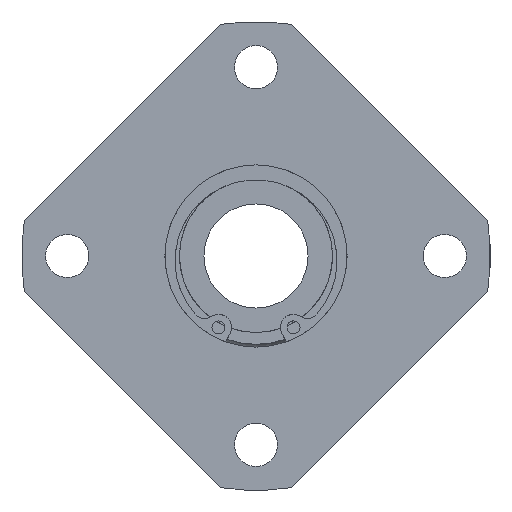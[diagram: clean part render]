
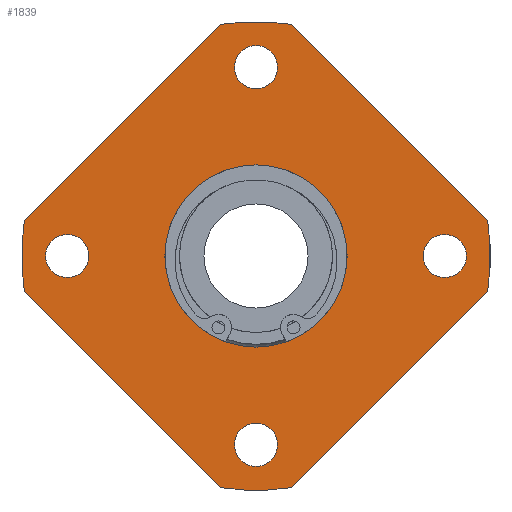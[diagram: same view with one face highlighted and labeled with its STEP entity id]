
A CAD part, left-side view. The second image highlights one B-rep face of the part: STEP entity #1839.
In plain terms, the highlighted planar face has unit normal (-1, 0, 0).
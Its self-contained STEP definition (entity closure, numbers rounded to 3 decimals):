
#60=CARTESIAN_POINT('',(0.0,29.,-3.324));
#61=VERTEX_POINT('',#60);
#62=CARTESIAN_POINT('',(0.0,29.,0.));
#63=DIRECTION('',(1.0,0.0,0.0));
#64=DIRECTION('',(0.0,0.0,-1.0));
#65=AXIS2_PLACEMENT_3D('',#62,#63,#64);
#66=CIRCLE('',#65,3.324);
#67=EDGE_CURVE('',#61,#61,#66,.T.);
#88=CARTESIAN_POINT('',(0.0,-3.324,-29.));
#89=VERTEX_POINT('',#88);
#90=CARTESIAN_POINT('',(0.0,0.,-29.));
#91=DIRECTION('',(1.0,0.0,0.0));
#92=DIRECTION('',(0.0,-1.0,0.0));
#93=AXIS2_PLACEMENT_3D('',#90,#91,#92);
#94=CIRCLE('',#93,3.324);
#95=EDGE_CURVE('',#89,#89,#94,.T.);
#116=CARTESIAN_POINT('',(0.0,-29.,3.324));
#117=VERTEX_POINT('',#116);
#118=CARTESIAN_POINT('',(0.0,-29.,0.));
#119=DIRECTION('',(1.0,0.0,0.0));
#120=DIRECTION('',(0.0,0.0,1.0));
#121=AXIS2_PLACEMENT_3D('',#118,#119,#120);
#122=CIRCLE('',#121,3.324);
#123=EDGE_CURVE('',#117,#117,#122,.T.);
#144=CARTESIAN_POINT('',(0.0,3.324,29.));
#145=VERTEX_POINT('',#144);
#146=CARTESIAN_POINT('',(0.0,0.0,29.));
#147=DIRECTION('',(1.0,0.0,0.0));
#148=DIRECTION('',(0.0,1.0,0.0));
#149=AXIS2_PLACEMENT_3D('',#146,#147,#148);
#150=CIRCLE('',#149,3.324);
#151=EDGE_CURVE('',#145,#145,#150,.T.);
#171=CARTESIAN_POINT('',(0.0,35.589,5.423));
#172=VERTEX_POINT('',#171);
#179=CARTESIAN_POINT('',(0.0,5.423,35.589));
#180=VERTEX_POINT('',#179);
#181=CARTESIAN_POINT('',(0.0,5.423,35.589));
#182=DIRECTION('',(0.0,0.707,-0.707));
#183=VECTOR('',#182,42.661);
#184=LINE('',#181,#183);
#185=EDGE_CURVE('',#180,#172,#184,.T.);
#211=CARTESIAN_POINT('',(0.0,5.423,-35.589));
#212=VERTEX_POINT('',#211);
#219=CARTESIAN_POINT('',(0.0,35.589,-5.423));
#220=VERTEX_POINT('',#219);
#221=CARTESIAN_POINT('',(0.0,35.589,-5.423));
#222=DIRECTION('',(0.0,-0.707,-0.707));
#223=VECTOR('',#222,42.661);
#224=LINE('',#221,#223);
#225=EDGE_CURVE('',#220,#212,#224,.T.);
#251=CARTESIAN_POINT('',(0.0,-5.423,35.589));
#252=VERTEX_POINT('',#251);
#259=CARTESIAN_POINT('',(0.0,-35.589,5.423));
#260=VERTEX_POINT('',#259);
#261=CARTESIAN_POINT('',(0.0,-35.589,5.423));
#262=DIRECTION('',(0.0,0.707,0.707));
#263=VECTOR('',#262,42.661);
#264=LINE('',#261,#263);
#265=EDGE_CURVE('',#260,#252,#264,.T.);
#291=CARTESIAN_POINT('',(0.0,-35.589,-5.423));
#292=VERTEX_POINT('',#291);
#299=CARTESIAN_POINT('',(0.0,-5.423,-35.589));
#300=VERTEX_POINT('',#299);
#301=CARTESIAN_POINT('',(0.0,-5.423,-35.589));
#302=DIRECTION('',(0.0,-0.707,0.707));
#303=VECTOR('',#302,42.661);
#304=LINE('',#301,#303);
#305=EDGE_CURVE('',#300,#292,#304,.T.);
#322=CARTESIAN_POINT('',(0.0,0.0,0.0));
#323=DIRECTION('',(-1.0,0.0,0.0));
#324=DIRECTION('',(0.0,0.0,1.0));
#325=AXIS2_PLACEMENT_3D('',#322,#323,#324);
#326=CIRCLE('',#325,36.0);
#327=EDGE_CURVE('',#292,#260,#326,.T.);
#354=CARTESIAN_POINT('',(0.0,0.0,0.0));
#355=DIRECTION('',(-1.0,0.0,0.0));
#356=DIRECTION('',(0.0,0.0,1.0));
#357=AXIS2_PLACEMENT_3D('',#354,#355,#356);
#358=CIRCLE('',#357,36.0);
#359=EDGE_CURVE('',#212,#300,#358,.T.);
#370=CARTESIAN_POINT('',(0.0,0.0,0.0));
#371=DIRECTION('',(-1.0,0.0,0.0));
#372=DIRECTION('',(0.0,0.0,1.0));
#373=AXIS2_PLACEMENT_3D('',#370,#371,#372);
#374=CIRCLE('',#373,36.0);
#375=EDGE_CURVE('',#252,#180,#374,.T.);
#402=CARTESIAN_POINT('',(0.0,0.0,0.0));
#403=DIRECTION('',(-1.0,0.0,0.0));
#404=DIRECTION('',(0.0,0.0,1.0));
#405=AXIS2_PLACEMENT_3D('',#402,#403,#404);
#406=CIRCLE('',#405,36.0);
#407=EDGE_CURVE('',#172,#220,#406,.T.);
#1801=CARTESIAN_POINT('',(0.0,0.0,25.0));
#1802=DIRECTION('',(-1.0,0.0,0.0));
#1803=DIRECTION('',(0.0,0.0,1.0));
#1804=AXIS2_PLACEMENT_3D('',#1801,#1802,#1803);
#1805=PLANE('',#1804);
#1806=ORIENTED_EDGE('',*,*,#185,.T.);
#1807=ORIENTED_EDGE('',*,*,#407,.T.);
#1808=ORIENTED_EDGE('',*,*,#225,.T.);
#1809=ORIENTED_EDGE('',*,*,#359,.T.);
#1810=ORIENTED_EDGE('',*,*,#305,.T.);
#1811=ORIENTED_EDGE('',*,*,#327,.T.);
#1812=ORIENTED_EDGE('',*,*,#265,.T.);
#1813=ORIENTED_EDGE('',*,*,#375,.T.);
#1814=EDGE_LOOP('',(#1806,#1807,#1808,#1809,#1810,#1811,#1812,#1813));
#1815=FACE_OUTER_BOUND('',#1814,.T.);
#1816=ORIENTED_EDGE('',*,*,#67,.T.);
#1817=EDGE_LOOP('',(#1816));
#1818=FACE_BOUND('',#1817,.T.);
#1819=ORIENTED_EDGE('',*,*,#95,.T.);
#1820=EDGE_LOOP('',(#1819));
#1821=FACE_BOUND('',#1820,.T.);
#1822=ORIENTED_EDGE('',*,*,#123,.T.);
#1823=EDGE_LOOP('',(#1822));
#1824=FACE_BOUND('',#1823,.T.);
#1825=ORIENTED_EDGE('',*,*,#151,.T.);
#1826=EDGE_LOOP('',(#1825));
#1827=FACE_BOUND('',#1826,.T.);
#1828=CARTESIAN_POINT('',(0.0,0.0,14.));
#1829=VERTEX_POINT('',#1828);
#1830=CARTESIAN_POINT('',(0.0,0.0,0.0));
#1831=DIRECTION('',(-1.0,0.0,0.0));
#1832=DIRECTION('',(0.0,0.0,1.0));
#1833=AXIS2_PLACEMENT_3D('',#1830,#1831,#1832);
#1834=CIRCLE('',#1833,14.);
#1835=EDGE_CURVE('',#1829,#1829,#1834,.T.);
#1836=ORIENTED_EDGE('',*,*,#1835,.F.);
#1837=EDGE_LOOP('',(#1836));
#1838=FACE_BOUND('',#1837,.T.);
#1839=ADVANCED_FACE('',(#1815,#1818,#1821,#1824,#1827,#1838),#1805,.T.);
